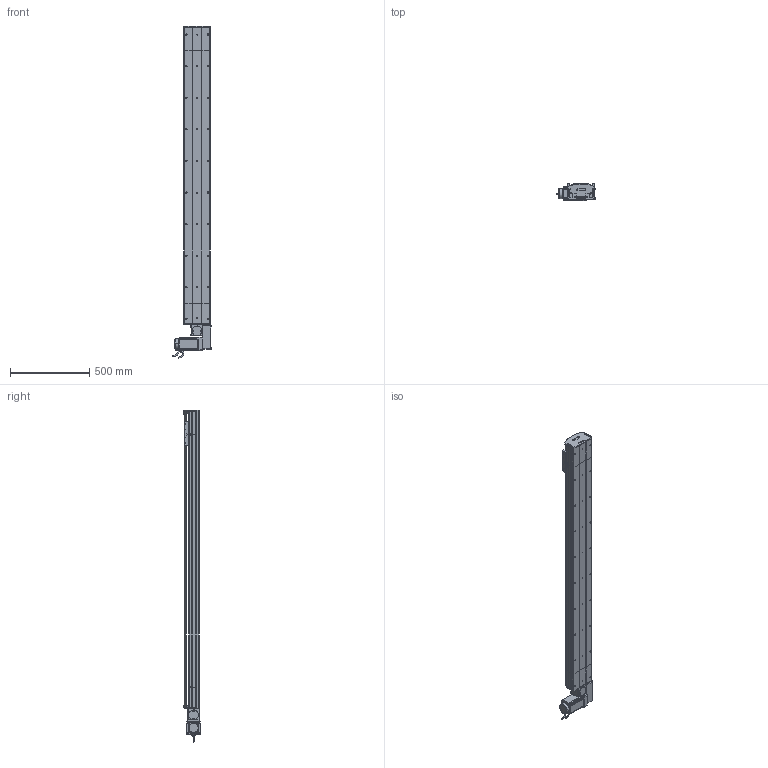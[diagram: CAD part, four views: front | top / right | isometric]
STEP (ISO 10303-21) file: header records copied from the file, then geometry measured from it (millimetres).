
FILE_DESCRIPTION (( 'STEP AP214' ), '1' );
FILE_NAME ('D17 TBH LH S1600.STEP', '2010-06-30T08:09:10', ( 'Christophe Gaillard' ), ( 'SGA' ), 'SwSTEP 2.0', 'SolidWorks 2010', '' );
FILE_SCHEMA (( 'AUTOMOTIVE_DESIGN' ));
Length unit declared in the file: millimetre
Products named in the file (40): Renvoi LH_Default; D17 TBH LH S1600; couroie head D17_Default; course 1600 D17B_Default; vis M5 L5_Default; corp D17B 1600_Default; Couroie+ rail D17 Course 1600 ; cache arbre D17_Default; poulie head_Default; couvercle D17B course L1600_Default; cache D17_Default; Arbre+rail head D17B; plaque de  bout head D17B LH_Default; couvercle D17B head_Default; corpl head D17 _Default; Head LH D17B_Default; Conecteur2_Default; codeur 90BLDC125-640; corps 90BLDC125A-640; vis M5 L16_Default; Plaque racord D17_Default; vis M5 L70_Default; Conecteur_Default; corpl tail D17B_Default; Tail D17B_Default; Vis M5 L16-2_Default; plaque de  bout tail D17B_Default; Rail D17B; tete d''axe poulie D17B; couvercle D17B_Default; Couroie tail D17B_Default; poulie tail_Default; chariot D17S_Default; vis M5 L25_Default; vis M5 L8 90°_Default; vis M5 L12_Default; guide D17; Chariot D17; avant 90BLDC125A-640; Moteur motionking 90BLDC125A-640
Assembly tree (70 placements, depth 4):
  D17 TBH LH S1600
    Tail D17B_Default
      vis M5 L12_Default  x4
      vis M5 L8 90°_Default  x2
      Rail D17B
      vis M5 L25_Default  x2
      couvercle D17B_Default
      plaque de  bout tail D17B_Default
      Couroie tail D17B_Default
      tete d''axe poulie D17B
      poulie tail_Default
      corpl tail D17B_Default
    course 1600 D17B_Default
      couvercle D17B course L1600_Default
      Couroie+ rail D17 Course 1600 
      corp D17B 1600_Default
    Head LH D17B_Default
      Renvoi LH_Default
      vis M5 L5_Default  x4
      vis M5 L25_Default  x2
      vis M5 L12_Default  x8
      plaque de  bout head D17B LH_Default
      cache arbre D17_Default
      Vis M5 L16-2_Default  x4
      vis M5 L70_Default  x4
      poulie head_Default
      vis M5 L16_Default  x2
      Moteur motionking 90BLDC125A-640
        codeur 90BLDC125-640
        avant 90BLDC125A-640
        Conecteur2_Default
        corps 90BLDC125A-640
        Conecteur_Default
      cache D17_Default  x2
      Arbre+rail head D17B
      Plaque racord D17_Default
      corpl head D17 _Default
      couroie head D17_Default
      couvercle D17B head_Default
    chariot D17S_Default
      guide D17  x2
      vis M5 L12_Default  x4
      Chariot D17
Bounding box: 245.2 x 105.65 x 2100.95 mm (x, y, z)
Volume: 12219376.9 mm3; surface area: 3475888.3 mm2
Topology: 94 solids, 94 shells, 2689 faces, 6777 edges, 4362 vertices
Faces by surface type: plane 1607, cylinder 769, bspline 136, cone 88, torus 85, sphere 4
Entity records: 84264 total; most frequent: CARTESIAN_POINT 24917, ORIENTED_EDGE 10326, DIRECTION 9804, EDGE_CURVE 5163, VECTOR 3438, LINE 3438, VERTEX_POINT 3386, AXIS2_PLACEMENT_3D 3183
